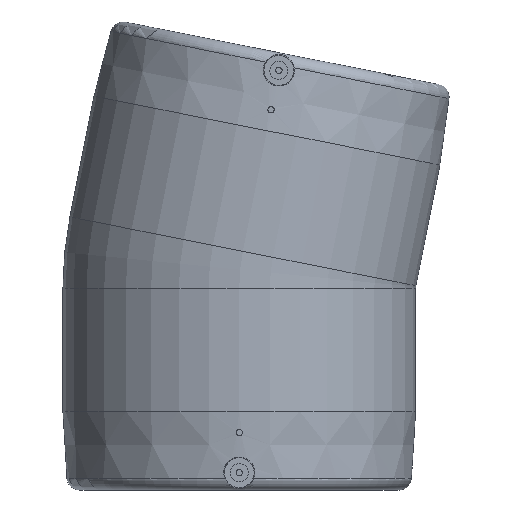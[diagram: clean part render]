
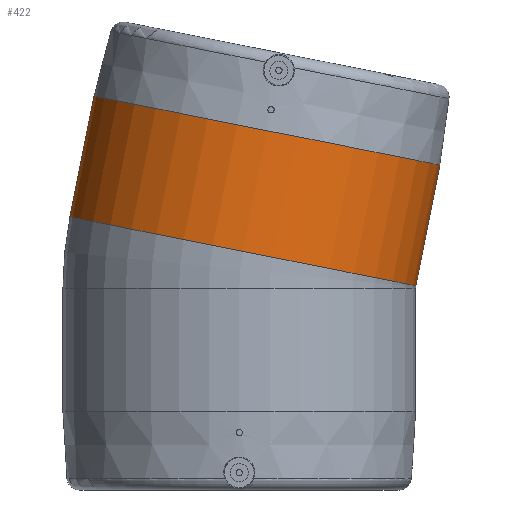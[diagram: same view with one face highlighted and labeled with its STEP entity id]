
A CAD part, front view. The second image highlights one B-rep face of the part: STEP entity #422.
In plain terms, the highlighted cylindrical face has radius 112 mm (diameter 224 mm), a full revolution.
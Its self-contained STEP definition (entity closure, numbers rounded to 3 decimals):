
#55=CYLINDRICAL_SURFACE('',#500,112.);
#133=ORIENTED_EDGE('',*,*,#185,.T.);
#134=ORIENTED_EDGE('',*,*,#187,.T.);
#185=EDGE_CURVE('',#228,#228,#256,.F.);
#187=EDGE_CURVE('',#230,#230,#258,.T.);
#228=VERTEX_POINT('',#813);
#230=VERTEX_POINT('',#819);
#256=CIRCLE('',#497,112.);
#258=CIRCLE('',#501,112.);
#311=EDGE_LOOP('',(#133));
#312=EDGE_LOOP('',(#134));
#372=FACE_BOUND('',#311,.T.);
#373=FACE_BOUND('',#312,.T.);
#422=ADVANCED_FACE('',(#372,#373),#55,.T.);
#497=AXIS2_PLACEMENT_3D('',#812,#624,#625);
#500=AXIS2_PLACEMENT_3D('',#817,#630,#631);
#501=AXIS2_PLACEMENT_3D('',#818,#632,#633);
#624=DIRECTION('',(-0.195,0.,-0.981));
#625=DIRECTION('',(0.981,0.,-0.195));
#630=DIRECTION('',(0.195,0.,0.981));
#631=DIRECTION('',(0.981,0.,-0.195));
#632=DIRECTION('',(-0.195,0.,-0.981));
#633=DIRECTION('',(-0.981,0.,0.195));
#812=CARTESIAN_POINT('',(2.306,0.,11.592));
#813=CARTESIAN_POINT('',(112.154,0.,-10.258));
#817=CARTESIAN_POINT('',(2.306,0.,11.592));
#818=CARTESIAN_POINT('',(17.558,0.,88.271));
#819=CARTESIAN_POINT('',(-92.29,0.,110.121));
